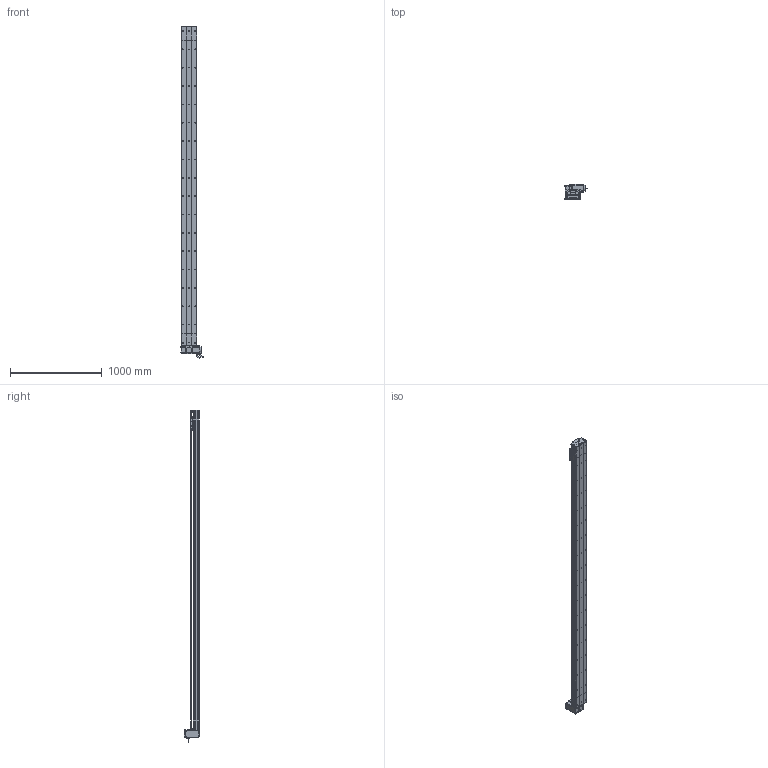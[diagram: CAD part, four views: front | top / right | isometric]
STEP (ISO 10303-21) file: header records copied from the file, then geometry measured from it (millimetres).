
FILE_DESCRIPTION (( 'STEP AP214' ), '1' );
FILE_NAME ('D17 TBH RT S3200.STEP', '2010-06-30T09:11:02', ( 'Christophe Gaillard' ), ( 'SGA' ), 'SwSTEP 2.0', 'SolidWorks 2010', '' );
FILE_SCHEMA (( 'AUTOMOTIVE_DESIGN' ));
Length unit declared in the file: millimetre
Products named in the file (40): D17 TBH RT S3200; course 3200 D17B_Default; vis M5 L12_Default; guide D17; Chariot D17; Tail D17B_Default; Renvoi RT_Default; chariot D17S_Default; vis M5 L25_Default; vis M5 L8 90°_Default; corpl tail D17B_Default; couvercle D17B_Default; Couroie tail D17B_Default; Rail D17B; tete d''axe poulie D17B; poulie tail_Default; plaque de  bout tail D17B_Default; Head RT D17B_Default; couvercle D17B course L3200_Default; corp D17B 3200_Default; plaque de  bout head D17B RT_Default; couvercle D17B head_Default; corpl head D17 _Default; vis M5 L5_Default; cache D17_Default; Arbre+rail head D17B; avant 90BLDC125A-640; Moteur motionking 90BLDC125A-640; couroie head D17_Default; poulie head_Default; Conecteur2_Default; codeur 90BLDC125-640; corps 90BLDC125A-640; Plaque racord D17_Default; vis M5 L70_Default; Conecteur_Default; cache arbre D17_Default; Vis M5 L16-2_Default; vis M5 L16_Default; Couroie+ rail D17 Course 3200 
Assembly tree (70 placements, depth 4):
  D17 TBH RT S3200
    Head RT D17B_Default
      vis M5 L12_Default  x8
      vis M5 L70_Default  x4
      cache D17_Default  x2
      cache arbre D17_Default
      vis M5 L5_Default  x4
      Arbre+rail head D17B
      couroie head D17_Default
      Vis M5 L16-2_Default  x4
      corpl head D17 _Default
      Moteur motionking 90BLDC125A-640
        corps 90BLDC125A-640
        Conecteur_Default
        avant 90BLDC125A-640
        Conecteur2_Default
        codeur 90BLDC125-640
      plaque de  bout head D17B RT_Default
      vis M5 L16_Default  x2
      poulie head_Default
      vis M5 L25_Default  x2
      couvercle D17B head_Default
      Plaque racord D17_Default
      Renvoi RT_Default
    Tail D17B_Default
      vis M5 L25_Default  x2
      vis M5 L12_Default  x4
      vis M5 L8 90°_Default  x2
      Couroie tail D17B_Default
      poulie tail_Default
      corpl tail D17B_Default
      Rail D17B
      tete d''axe poulie D17B
      couvercle D17B_Default
      plaque de  bout tail D17B_Default
    course 3200 D17B_Default
      couvercle D17B course L3200_Default
      Couroie+ rail D17 Course 3200 
      corp D17B 3200_Default
    chariot D17S_Default
      Chariot D17
      vis M5 L12_Default  x4
      guide D17  x2
Bounding box: 245.2 x 166.15 x 3617.95 mm (x, y, z)
Volume: 20496848.5 mm3; surface area: 5985197.6 mm2
Topology: 94 solids, 94 shells, 2785 faces, 7129 edges, 4586 vertices
Faces by surface type: plane 1607, cylinder 865, bspline 136, cone 88, torus 85, sphere 4
Entity records: 88296 total; most frequent: CARTESIAN_POINT 25845, ORIENTED_EDGE 11030, DIRECTION 10444, EDGE_CURVE 5515, VERTEX_POINT 3610, LINE 3566, VECTOR 3566, AXIS2_PLACEMENT_3D 3439
